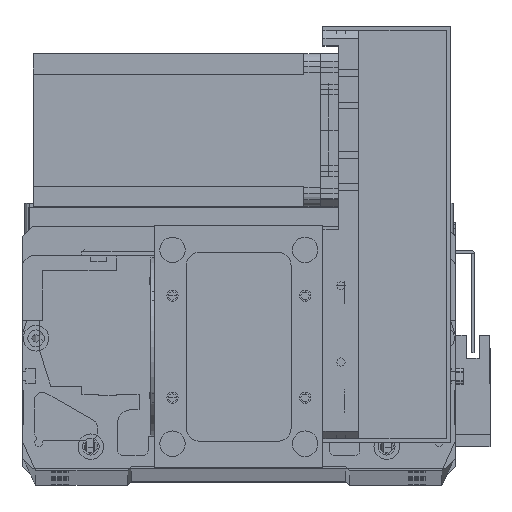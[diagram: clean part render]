
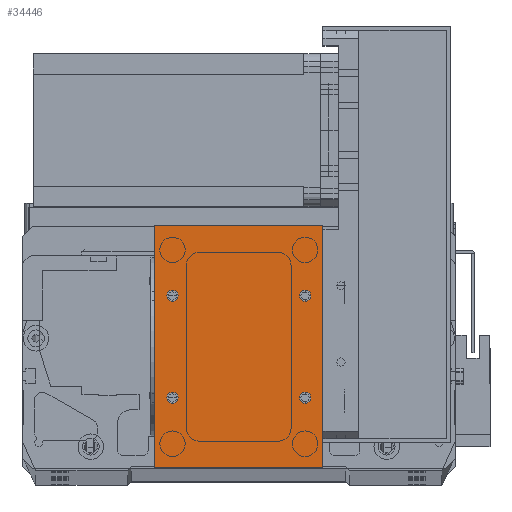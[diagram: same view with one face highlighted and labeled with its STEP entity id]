
A CAD part, top view. The second image highlights one B-rep face of the part: STEP entity #34446.
In plain terms, the highlighted planar face has unit normal (0, 0, 1).
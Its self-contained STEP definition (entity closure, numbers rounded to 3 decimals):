
#21 = CIRCLE ( 'NONE', #25678, 2.25 ) ;
#443 = CARTESIAN_POINT ( 'NONE',  ( 7., 67.5, 2. ) ) ;
#516 = AXIS2_PLACEMENT_3D ( 'NONE', #5360, #24327, #8082 ) ;
#710 = EDGE_CURVE ( 'NONE', #7588, #11301, #7644, .T. ) ;
#1053 = CARTESIAN_POINT ( 'NONE',  ( 0., 0., 2. ) ) ;
#1270 = DIRECTION ( 'NONE',  ( 0., 0., 1. ) ) ;
#1849 = VERTEX_POINT ( 'NONE', #12797 ) ;
#2205 = EDGE_CURVE ( 'NONE', #11301, #29671, #5848, .T. ) ;
#3169 = DIRECTION ( 'NONE',  ( 1., 0., 0. ) ) ;
#3506 = CARTESIAN_POINT ( 'NONE',  ( 0., 95., 2. ) ) ;
#4387 = DIRECTION ( 'NONE',  ( 0., 1., 0. ) ) ;
#4674 = AXIS2_PLACEMENT_3D ( 'NONE', #24830, #32970, #16782 ) ;
#5026 = VECTOR ( 'NONE', #6198, 1000. ) ;
#5338 = CIRCLE ( 'NONE', #34109, 2.25 ) ;
#5360 = CARTESIAN_POINT ( 'NONE',  ( 59., 67.5, 2. ) ) ;
#5803 = CARTESIAN_POINT ( 'NONE',  ( 59., 27.5, 2. ) ) ;
#5848 = LINE ( 'NONE', #3506, #5026 ) ;
#5870 = PLANE ( 'NONE',  #4674 ) ;
#5971 = CARTESIAN_POINT ( 'NONE',  ( 56.75, 67.5, 2. ) ) ;
#5997 = AXIS2_PLACEMENT_3D ( 'NONE', #17511, #1270, #20252 ) ;
#6056 = FACE_BOUND ( 'NONE', #12561, .T. ) ;
#6198 = DIRECTION ( 'NONE',  ( -1., 0., 0. ) ) ;
#6582 = CARTESIAN_POINT ( 'NONE',  ( 7., 27.5, 2. ) ) ;
#6770 = VERTEX_POINT ( 'NONE', #19115 ) ;
#6985 = AXIS2_PLACEMENT_3D ( 'NONE', #30731, #14553, #33463 ) ;
#7319 = AXIS2_PLACEMENT_3D ( 'NONE', #28738, #12532, #31468 ) ;
#7588 = VERTEX_POINT ( 'NONE', #15050 ) ;
#7644 = LINE ( 'NONE', #17915, #22091 ) ;
#7747 = FACE_BOUND ( 'NONE', #9004, .T. ) ;
#8082 = DIRECTION ( 'NONE',  ( 1., 0., 0. ) ) ;
#8099 = CARTESIAN_POINT ( 'NONE',  ( 66., 95., 2. ) ) ;
#8530 = DIRECTION ( 'NONE',  ( 1., 0., 0. ) ) ;
#8640 = CIRCLE ( 'NONE', #7319, 2.25 ) ;
#8713 = EDGE_CURVE ( 'NONE', #23834, #6770, #8640, .T. ) ;
#8770 = ORIENTED_EDGE ( 'NONE', *, *, #18764, .F. ) ;
#9004 = EDGE_LOOP ( 'NONE', ( #12676, #27722 ) ) ;
#9196 = DIRECTION ( 'NONE',  ( 0., 0., 1. ) ) ;
#9282 = ORIENTED_EDGE ( 'NONE', *, *, #710, .T. ) ;
#9300 = CARTESIAN_POINT ( 'NONE',  ( 0., 95., 2. ) ) ;
#9334 = DIRECTION ( 'NONE',  ( 1., 0., 0. ) ) ;
#9757 = EDGE_CURVE ( 'NONE', #22127, #28717, #33128, .T. ) ;
#9776 = EDGE_CURVE ( 'NONE', #29671, #30668, #32288, .T. ) ;
#9796 = DIRECTION ( 'NONE',  ( 1., 0., 0. ) ) ;
#9802 = EDGE_CURVE ( 'NONE', #1849, #26066, #9874, .T. ) ;
#9874 = CIRCLE ( 'NONE', #16090, 2.25 ) ;
#10290 = ORIENTED_EDGE ( 'NONE', *, *, #9757, .F. ) ;
#11301 = VERTEX_POINT ( 'NONE', #8099 ) ;
#12532 = DIRECTION ( 'NONE',  ( 0., 0., 1. ) ) ;
#12561 = EDGE_LOOP ( 'NONE', ( #34928, #10290 ) ) ;
#12676 = ORIENTED_EDGE ( 'NONE', *, *, #19870, .F. ) ;
#12797 = CARTESIAN_POINT ( 'NONE',  ( 9.25, 27.5, 2. ) ) ;
#13058 = CARTESIAN_POINT ( 'NONE',  ( 4.75, 27.5, 2. ) ) ;
#13280 = FACE_BOUND ( 'NONE', #33438, .T. ) ;
#14385 = CARTESIAN_POINT ( 'NONE',  ( 61.25, 67.5, 2. ) ) ;
#14391 = VERTEX_POINT ( 'NONE', #14385 ) ;
#14553 = DIRECTION ( 'NONE',  ( 0., 0., 1. ) ) ;
#15050 = CARTESIAN_POINT ( 'NONE',  ( 66., 0., 2. ) ) ;
#15512 = EDGE_CURVE ( 'NONE', #28717, #22127, #22232, .T. ) ;
#15721 = EDGE_CURVE ( 'NONE', #26066, #1849, #23508, .T. ) ;
#15794 = AXIS2_PLACEMENT_3D ( 'NONE', #443, #19415, #3169 ) ;
#16090 = AXIS2_PLACEMENT_3D ( 'NONE', #6582, #25562, #9334 ) ;
#16458 = CARTESIAN_POINT ( 'NONE',  ( 9.25, 67.5, 2. ) ) ;
#16782 = DIRECTION ( 'NONE',  ( -1., 0., 0. ) ) ;
#17159 = DIRECTION ( 'NONE',  ( 0., -1., 0. ) ) ;
#17511 = CARTESIAN_POINT ( 'NONE',  ( 7., 27.5, 2. ) ) ;
#17915 = CARTESIAN_POINT ( 'NONE',  ( 66., 0., 2. ) ) ;
#18216 = CARTESIAN_POINT ( 'NONE',  ( 0., 0., 2. ) ) ;
#18764 = EDGE_CURVE ( 'NONE', #6770, #23834, #21, .T. ) ;
#19115 = CARTESIAN_POINT ( 'NONE',  ( 61.25, 27.5, 2. ) ) ;
#19415 = DIRECTION ( 'NONE',  ( 0., 0., 1. ) ) ;
#19870 = EDGE_CURVE ( 'NONE', #14391, #29539, #24519, .T. ) ;
#20252 = DIRECTION ( 'NONE',  ( 1., 0., 0. ) ) ;
#21206 = EDGE_CURVE ( 'NONE', #29539, #14391, #5338, .T. ) ;
#21577 = ORIENTED_EDGE ( 'NONE', *, *, #8713, .F. ) ;
#22091 = VECTOR ( 'NONE', #4387, 1000. ) ;
#22127 = VERTEX_POINT ( 'NONE', #33275 ) ;
#22232 = CIRCLE ( 'NONE', #15794, 2.25 ) ;
#22356 = EDGE_LOOP ( 'NONE', ( #23265, #27183 ) ) ;
#22455 = VECTOR ( 'NONE', #9796, 1000. ) ;
#23265 = ORIENTED_EDGE ( 'NONE', *, *, #9802, .F. ) ;
#23281 = ORIENTED_EDGE ( 'NONE', *, *, #9776, .T. ) ;
#23508 = CIRCLE ( 'NONE', #5997, 2.25 ) ;
#23834 = VERTEX_POINT ( 'NONE', #33047 ) ;
#24327 = DIRECTION ( 'NONE',  ( 0., 0., 1. ) ) ;
#24519 = CIRCLE ( 'NONE', #516, 2.25 ) ;
#24770 = DIRECTION ( 'NONE',  ( 0., 0., 1. ) ) ;
#24830 = CARTESIAN_POINT ( 'NONE',  ( 0., 0., 2. ) ) ;
#25427 = CARTESIAN_POINT ( 'NONE',  ( 59., 67.5, 2. ) ) ;
#25562 = DIRECTION ( 'NONE',  ( 0., 0., 1. ) ) ;
#25678 = AXIS2_PLACEMENT_3D ( 'NONE', #5803, #24770, #8530 ) ;
#26066 = VERTEX_POINT ( 'NONE', #13058 ) ;
#26335 = EDGE_LOOP ( 'NONE', ( #23281, #30445, #9282, #34190 ) ) ;
#26830 = FACE_OUTER_BOUND ( 'NONE', #26335, .T. ) ;
#27183 = ORIENTED_EDGE ( 'NONE', *, *, #15721, .F. ) ;
#27722 = ORIENTED_EDGE ( 'NONE', *, *, #21206, .F. ) ;
#28138 = DIRECTION ( 'NONE',  ( 1., 0., 0. ) ) ;
#28713 = CARTESIAN_POINT ( 'NONE',  ( 0., 0., 2. ) ) ;
#28717 = VERTEX_POINT ( 'NONE', #16458 ) ;
#28738 = CARTESIAN_POINT ( 'NONE',  ( 59., 27.5, 2. ) ) ;
#29539 = VERTEX_POINT ( 'NONE', #5971 ) ;
#29671 = VERTEX_POINT ( 'NONE', #9300 ) ;
#30445 = ORIENTED_EDGE ( 'NONE', *, *, #30610, .T. ) ;
#30468 = LINE ( 'NONE', #28713, #22455 ) ;
#30610 = EDGE_CURVE ( 'NONE', #30668, #7588, #30468, .T. ) ;
#30668 = VERTEX_POINT ( 'NONE', #18216 ) ;
#30731 = CARTESIAN_POINT ( 'NONE',  ( 7., 67.5, 2. ) ) ;
#31462 = VECTOR ( 'NONE', #17159, 1000. ) ;
#31468 = DIRECTION ( 'NONE',  ( 1., 0., 0. ) ) ;
#32288 = LINE ( 'NONE', #1053, #31462 ) ;
#32970 = DIRECTION ( 'NONE',  ( 0., 0., -1. ) ) ;
#33047 = CARTESIAN_POINT ( 'NONE',  ( 56.75, 27.5, 2. ) ) ;
#33128 = CIRCLE ( 'NONE', #6985, 2.25 ) ;
#33275 = CARTESIAN_POINT ( 'NONE',  ( 4.75, 67.5, 2. ) ) ;
#33438 = EDGE_LOOP ( 'NONE', ( #8770, #21577 ) ) ;
#33463 = DIRECTION ( 'NONE',  ( 1., 0., 0. ) ) ;
#34023 = FACE_BOUND ( 'NONE', #22356, .T. ) ;
#34109 = AXIS2_PLACEMENT_3D ( 'NONE', #25427, #9196, #28138 ) ;
#34190 = ORIENTED_EDGE ( 'NONE', *, *, #2205, .T. ) ;
#34446 = ADVANCED_FACE ( 'NONE', ( #6056, #7747, #13280, #34023, #26830 ), #5870, .F. ) ;
#34928 = ORIENTED_EDGE ( 'NONE', *, *, #15512, .F. ) ;
